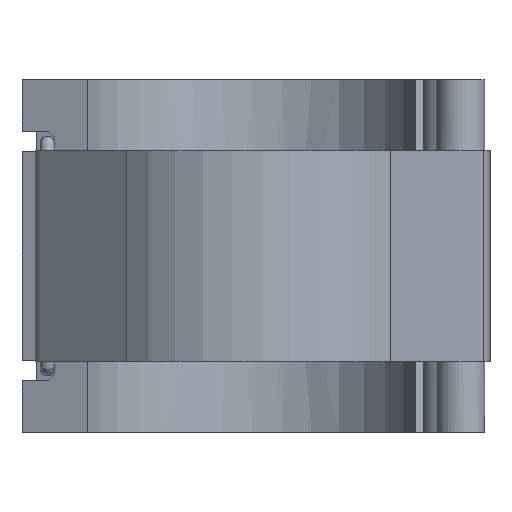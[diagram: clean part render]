
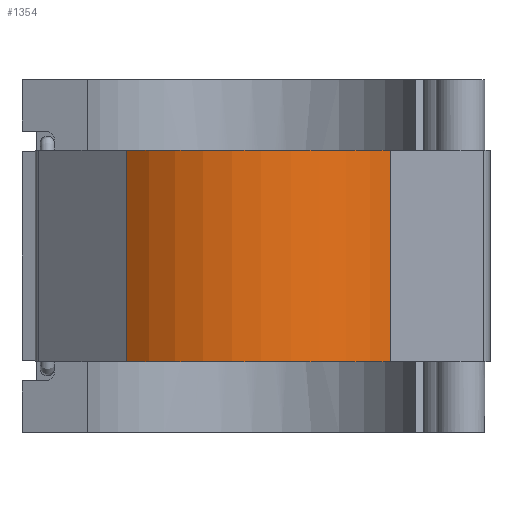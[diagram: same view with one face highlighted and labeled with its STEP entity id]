
A CAD part, front view. The second image highlights one B-rep face of the part: STEP entity #1354.
In plain terms, the highlighted cylindrical face has radius 89.868 mm (diameter 179.735 mm), a partial arc.
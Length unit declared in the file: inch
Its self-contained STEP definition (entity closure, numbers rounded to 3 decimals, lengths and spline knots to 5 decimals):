
#44=CYLINDRICAL_SURFACE('',#1492,3.53809);
#85=CIRCLE('',#1420,3.53809);
#94=CIRCLE('',#1430,3.53809);
#190=FACE_OUTER_BOUND('',#274,.T.);
#274=EDGE_LOOP('',(#1100,#1101,#1102,#1103));
#415=LINE('',#2230,#529);
#416=LINE('',#2232,#530);
#529=VECTOR('',#1807,0.3937);
#530=VECTOR('',#1810,0.3937);
#565=VERTEX_POINT('',#2000);
#566=VERTEX_POINT('',#2002);
#581=VERTEX_POINT('',#2034);
#582=VERTEX_POINT('',#2036);
#694=EDGE_CURVE('',#565,#566,#85,.T.);
#711=EDGE_CURVE('',#581,#582,#94,.T.);
#811=EDGE_CURVE('',#565,#582,#415,.T.);
#812=EDGE_CURVE('',#566,#581,#416,.T.);
#1100=ORIENTED_EDGE('',*,*,#811,.T.);
#1101=ORIENTED_EDGE('',*,*,#711,.F.);
#1102=ORIENTED_EDGE('',*,*,#812,.F.);
#1103=ORIENTED_EDGE('',*,*,#694,.F.);
#1354=ADVANCED_FACE('',(#190),#44,.T.);
#1420=AXIS2_PLACEMENT_3D('',#2003,#1584,#1585);
#1430=AXIS2_PLACEMENT_3D('',#2037,#1612,#1613);
#1492=AXIS2_PLACEMENT_3D('',#2231,#1808,#1809);
#1584=DIRECTION('center_axis',(0.,0.,-1.));
#1585=DIRECTION('ref_axis',(0.997,0.079,0.));
#1612=DIRECTION('center_axis',(0.,0.,1.));
#1613=DIRECTION('ref_axis',(0.997,0.079,0.));
#1807=DIRECTION('',(0.,0.,1.));
#1808=DIRECTION('center_axis',(0.,0.,1.));
#1809=DIRECTION('ref_axis',(0.997,0.079,0.));
#1810=DIRECTION('',(0.,0.,1.));
#2000=CARTESIAN_POINT('',(2.72586,-2.25561,-2.079));
#2002=CARTESIAN_POINT('',(-2.46817,-2.535,-2.079));
#2003=CARTESIAN_POINT('Origin',(0.,0.,-2.079));
#2034=CARTESIAN_POINT('',(-2.46817,-2.535,2.079));
#2036=CARTESIAN_POINT('',(2.72586,-2.25561,2.079));
#2037=CARTESIAN_POINT('Origin',(0.,0.,2.079));
#2230=CARTESIAN_POINT('',(2.72586,-2.25561,0.));
#2231=CARTESIAN_POINT('Origin',(0.,0.,0.));
#2232=CARTESIAN_POINT('',(-2.46817,-2.535,0.));
